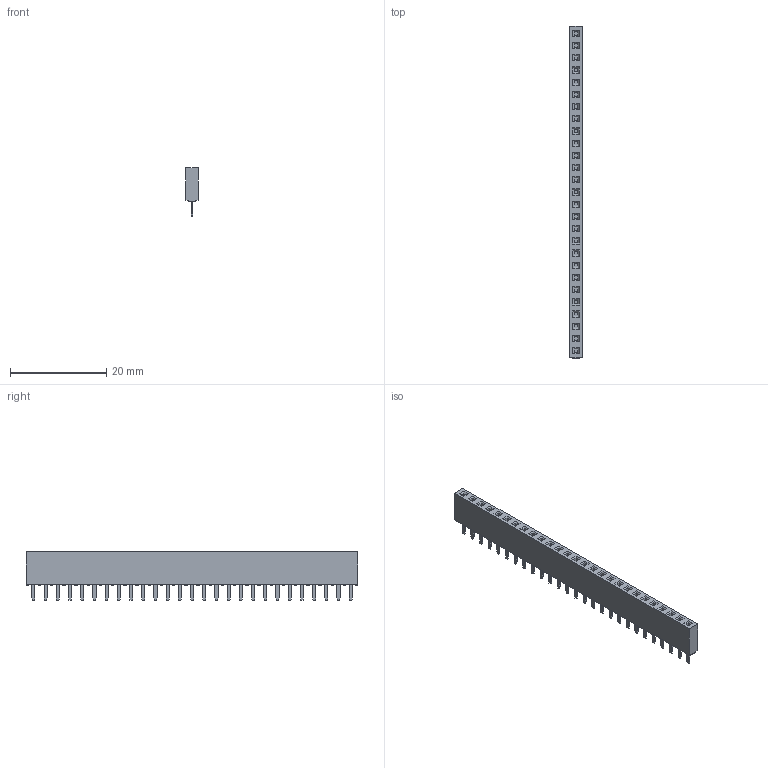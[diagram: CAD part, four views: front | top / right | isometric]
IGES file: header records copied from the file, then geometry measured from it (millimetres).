
Global section: file name: N:\GOLF_VI_2_54mm_UGII\960XXX-6X0X-XX (TS-2187)\960127-6202-XX.igs; native system: NX V3.0; preprocessor: UGS NX IGES V4.0; date: 20070618.075756; units: millimetre
Bounding box: 2.5 x 69.08 x 10.1 mm (x, y, z)
Surface area: 1795.7 mm2 (no closed solid volume)
Topology: 0 solids, 0 shells, 632 faces, 3084 edges, 3084 vertices
Faces by surface type: bspline 632
